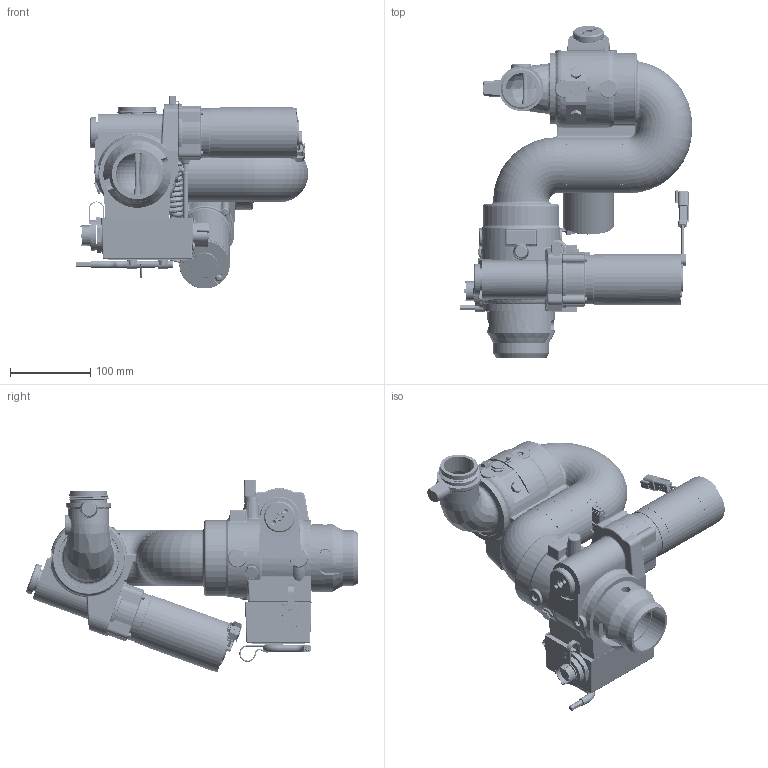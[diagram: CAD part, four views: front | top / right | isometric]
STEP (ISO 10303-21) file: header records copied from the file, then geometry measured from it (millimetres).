
FILE_DESCRIPTION((''),'2;1');
FILE_NAME('D45632_ASM','2025-04-21T06:27:53',('JHabegger'),(''),'CREO PARAMETRIC BY PTC INC, 2022244','CREO PARAMETRIC BY PTC INC, 2022244','');
FILE_SCHEMA(('CONFIG_CONTROL_DESIGN','SHAPE_APPEARANCE_LAYERS_GROUPS'));
Length unit declared in the file: inch
Products named in the file (41): D41500; D45556; C44307; B31458; B42557; B40834; 767132; DT04-2P-E003; D45632_MOTOR_SA_ASM; A17593; D45663; B31453; A31452; 713191; C45731; DTP04-4P-L012; DT04-4P-L012; USB_GASKET; USB_STRAP; PX0849-A_USB-PORT-NUT; PX0849-A_USB-PORT-CAP; DT06-2S-CE13_FORESTRY; HEATSHRINK; CABLE_EXTENSION; DT06-2S-CE13_FORESTRY_ASM; 92470A291; 97975A410; POTTING_FORESTRY; DT06_2S_CE13; COIL-CORD; DT06-2S-CE13_FORESTRY_COIL_ASM; LABEL_FORESTRY_CONTROLLER; C46193_ASM; 807139; 784072; B31462; 744339; 763079; B45717; 736045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
Assembly tree (67 placements, depth 4):
  D45632_ASM
    D41500
    D45556
    D45632_MOTOR_SA_ASM  x2
      C44307
      B31458
      B42557
      B40834
      767132
      DT04-2P-E003
    A17593  x7
    D45663
    B31453  x3
    A31452  x3
    713191  x2
    C46193_ASM
      C45731
      DTP04-4P-L012
      DT04-4P-L012
      USB_GASKET
      USB_STRAP
      PX0849-A_USB-PORT-NUT
      PX0849-A_USB-PORT-CAP
      DT06-2S-CE13_FORESTRY_ASM  x2
        DT06-2S-CE13_FORESTRY
        HEATSHRINK
        CABLE_EXTENSION
      92470A291  x2
      97975A410  x4
      POTTING_FORESTRY
      DT06-2S-CE13_FORESTRY_COIL_ASM
        DT06_2S_CE13
        COIL-CORD
        HEATSHRINK
      LABEL_FORESTRY_CONTROLLER
    807139  x2
    784072  x2
    B31462
    744339
    763079  x2
    B45717
    736045  x4
Bounding box: 288.93 x 413.04 x 239.96 mm (x, y, z)
Volume: 3182557.7 mm3; surface area: 863007.4 mm2
Topology: 72 solids, 93 shells, 10552 faces, 27382 edges, 17500 vertices
Faces by surface type: plane 4001, bspline 2665, cylinder 2495, torus 684, cone 550, sphere 147, extrusion 10
Entity records: 364170 total; most frequent: CARTESIAN_POINT 132491, ORIENTED_EDGE 39934, DIRECTION 30121, EDGE_CURVE 20098, PRESENTATION_STYLE_ASSIGNMENT 15794, STYLED_ITEM 15162, CURVE_STYLE 14493, VERTEX_POINT 12936
